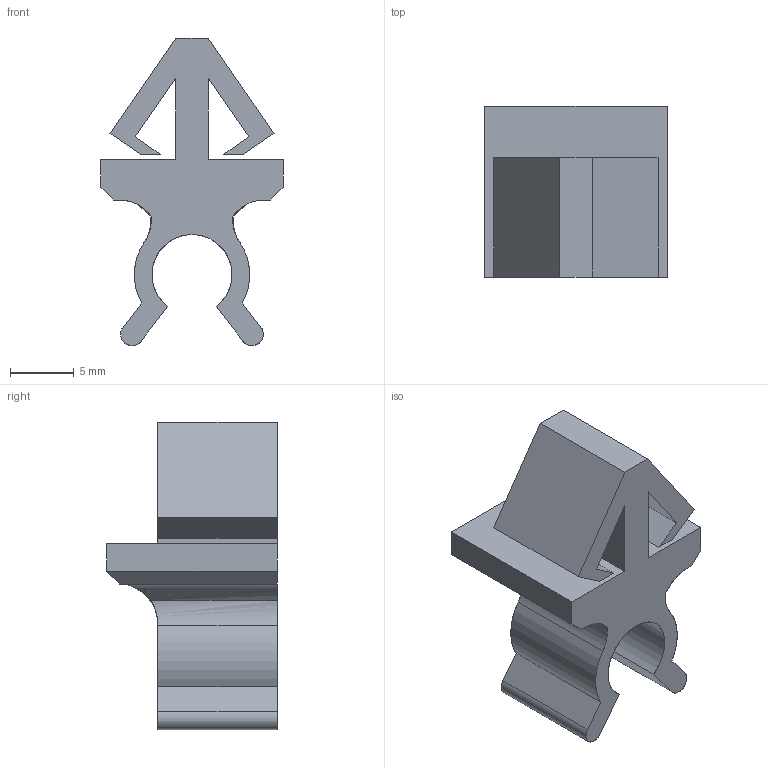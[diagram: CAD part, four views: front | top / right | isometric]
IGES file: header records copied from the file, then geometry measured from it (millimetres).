
Start section: SolidWorks IGES file using analytic representation for surfaces
Global section: file name: C:\Users\Allen\Desktop\3d hubs jobs\Hoodpropclip.IGS; native system: SolidWorks 2013; preprocessor: SolidWorks 2013; author: Allen; date: 150630.234221; units: millimetre
Bounding box: 14.29 x 13.4 x 24.1 mm (x, y, z)
Surface area: 1649.2 mm2 (no closed solid volume)
Topology: 0 solids, 0 shells, 45 faces, 396 edges, 396 vertices
Faces by surface type: bspline 32, revolution 13
